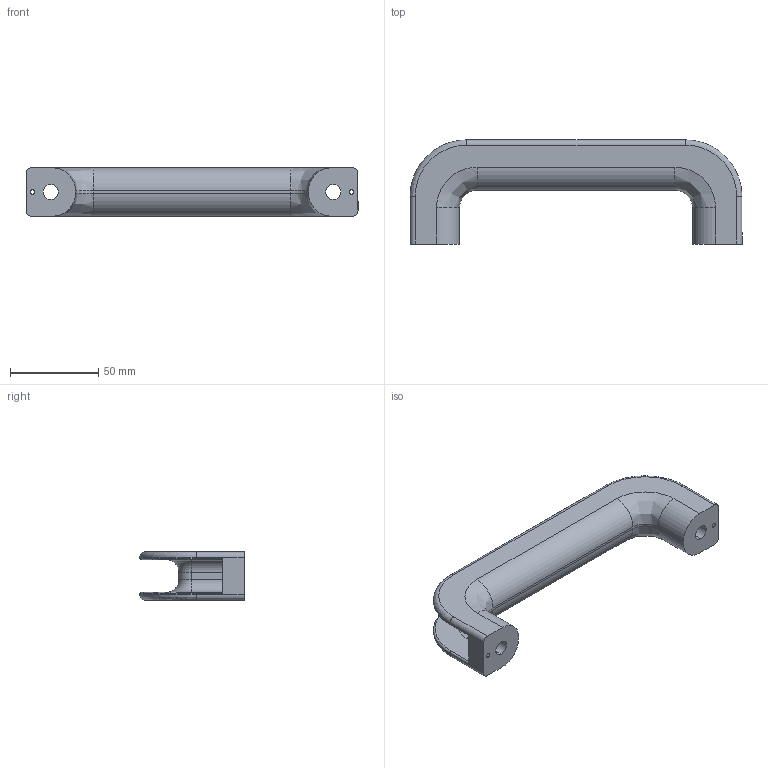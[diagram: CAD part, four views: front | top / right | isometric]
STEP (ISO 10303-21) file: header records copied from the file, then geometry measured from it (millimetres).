
FILE_DESCRIPTION (( 'STEP AP203' ), '1' );
FILE_NAME ('403070_Handgriff PA 160.step', '2022-05-31T08:57:13', ( '' ), ( '' ), 'SwSTEP 2.0', 'SolidWorks 2021', '' );
FILE_SCHEMA (( 'CONFIG_CONTROL_DESIGN' ));
Length unit declared in the file: millimetre
Products named in the file (1): 403070_Handgriff PA 160
Bounding box: 188 x 59 x 27.35 mm (x, y, z)
Volume: 78665.3 mm3; surface area: 33505.5 mm2
Topology: 1 solids, 1 shells, 80 faces, 196 edges, 120 vertices
Faces by surface type: cylinder 44, plane 20, bspline 12, torus 4
Entity records: 2793 total; most frequent: CARTESIAN_POINT 821, DIRECTION 414, ORIENTED_EDGE 392, EDGE_CURVE 196, AXIS2_PLACEMENT_3D 161, VERTEX_POINT 120, LINE 92, CIRCLE 92
